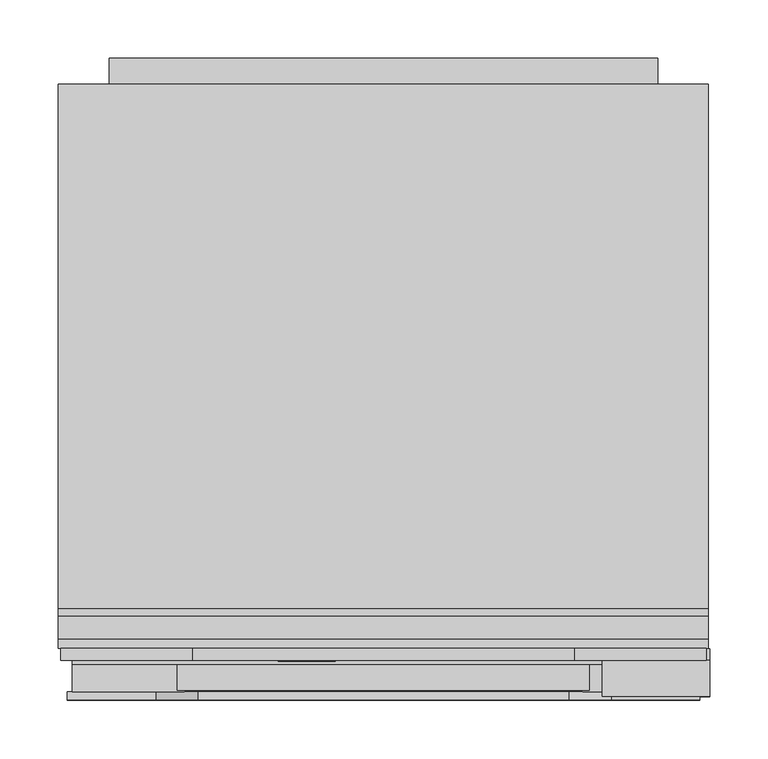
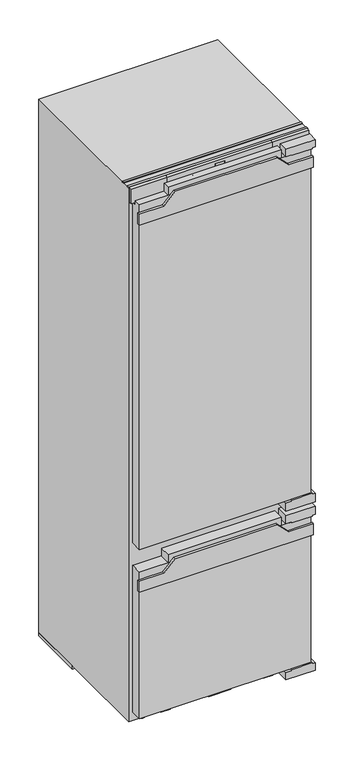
"""IFC4 building model written with IfcOpenShell, lengths in millimetres: proxy geometry, 11642240_EU1_KF7742D : 38774200_EU1_11642240_KF7742D."""

from ifc_helpers import new_model, si_unit, point, frame, frame_2d, origin, origin_with_axes, place, context, project, spatial, polyline, circle_curve, ellipse_curve, trimmed, segment, composite_curve, outline, extrude, faceted_brep, source, transform, mapped, element, save
from ifc_brep_helpers import plane_surface, cylinder_surface, revolved_surface, extruded_surface, advanced_brep


def specialty_equipment_e391ce8f(model_context):
    return source(origin(), model_context, "Body", "SolidModel", [
        advanced_brep(
        [(-46.64, 33.0, 1742.896), (-46.64, 33.0, 1743.704), (-41.288, 33.0, 1743.704), (-50.6, 33.0, 1743.704), (-48.4, 33.0, 1741.0), (-41.424, 33.0, 1742.896), (-43.84, 33.0, 1742.896), (-45.744, 33.0, 1742.0), (-46.64, 33.0, 1744.728), (-46.64, 33.0, 1745.6), (-45.272, 33.0, 1745.6), (-45.272, 33.0, 1744.728), (-46.64, 34.0, 1742.896), (-45.744, 34.0, 1742.0), (-43.84, 34.0, 1742.896), (-41.424, 34.0, 1742.896), (-48.4, 34.0, 1741.0), (-50.6, 34.0, 1743.704), (-41.288, 34.0, 1743.704), (-46.64, 34.0, 1743.704), (-46.64, 34.0, 1744.728), (-45.272, 34.0, 1744.728), (-45.272, 34.0, 1745.6), (-46.64, 34.0, 1745.6)],
        [
            (0, 1),
            (1, 2),
            (2, 3, ellipse_curve(frame((-45.944, 33.0, 1743.704), z_axis=(0.0, -1.0, 0.0), x_axis=(-1.0, 0.0, 0.0)), 4.656, 3.848)),
            (3, 4, circle_curve(frame((-47.5039564, 33.0, 1743.976), z_axis=(0.0, -1.0, 0.0), x_axis=(0.0, 0.0, -1.0)), 3.1079688)),
            (4, 5, circle_curve(frame((-46.0372064, 33.0, 1746.088), z_axis=(0.0, -1.0, 0.0), x_axis=(0.0, 0.0, -1.0)), 5.6098607)),
            (5, 6),
            (6, 7, circle_curve(frame((-45.3529412, 33.0, 1743.64), z_axis=(0.0, 1.0, 0.0), x_axis=(0.0, 0.0, -1.0)), 1.6859795)),
            (7, 0, circle_curve(frame((-45.744, 33.0, 1742.896), z_axis=(0.0, 1.0, 0.0), x_axis=(0.0, 0.0, -1.0)), 0.896)),
            (8, 9),
            (9, 10, circle_curve(frame((-45.956, 33.0, 1745.6), z_axis=(0.0, 1.0, 0.0), x_axis=(0.0, 0.0, -1.0)), 0.684)),
            (10, 11),
            (11, 8),
            (12, 13, circle_curve(frame((-45.744, 34.0, 1742.896), z_axis=(0.0, -1.0, 0.0), x_axis=(0.0, 0.0, -1.0)), 0.896)),
            (13, 14, circle_curve(frame((-45.3529412, 34.0, 1743.64), z_axis=(0.0, -1.0, 0.0), x_axis=(0.0, 0.0, -1.0)), 1.6859795)),
            (14, 15),
            (15, 16, circle_curve(frame((-46.0372064, 34.0, 1746.088), z_axis=(0.0, 1.0, 0.0), x_axis=(0.0, 0.0, -1.0)), 5.6098607)),
            (16, 17, circle_curve(frame((-47.5039564, 34.0, 1743.976), z_axis=(0.0, 1.0, 0.0), x_axis=(0.0, 0.0, -1.0)), 3.1079688)),
            (17, 18, ellipse_curve(frame((-45.944, 34.0, 1743.704), z_axis=(0.0, 1.0, 0.0), x_axis=(-1.0, 0.0, 0.0)), 4.656, 3.848)),
            (18, 19),
            (19, 12),
            (20, 21),
            (21, 22),
            (22, 23, circle_curve(frame((-45.956, 34.0, 1745.6), z_axis=(0.0, -1.0, 0.0), x_axis=(0.0, 0.0, -1.0)), 0.684)),
            (23, 20),
            (0, 12),
            (19, 1),
            (18, 2),
            (5, 15),
            (14, 6),
            (17, 3),
            (13, 7),
            (16, 4),
            (8, 20),
            (23, 9),
            (22, 10),
            (21, 11),
        ],
        [
            plane_surface(frame((-46.64, 33.0, 1743.704), z_axis=(0.0, -1.0, 0.0), x_axis=(0.0, 0.0, 1.0))),
            plane_surface(frame((-46.64, 34.0, 1743.704), z_axis=(0.0, 1.0, 0.0), x_axis=(0.0, 0.0, -1.0))),
            plane_surface(frame((-46.64, 33.0, 1742.896), z_axis=(1.0, 0.0, 0.0), x_axis=(0.0, 1.0, 0.0))),
            plane_surface(frame((-46.64, 33.0, 1743.704), z_axis=(0.0, 0.0, -1.0), x_axis=(0.0, 1.0, 0.0))),
            plane_surface(frame((-41.424, 33.0, 1742.896), z_axis=(0.0, 0.0, 1.0), x_axis=(0.0, 1.0, 0.0))),
            extruded_surface(trimmed(ellipse_curve(frame((-45.944, 35.0, 1743.704), z_axis=(0.0, -1.0, 0.0), x_axis=(-1.0, 0.0, 0.0)), 4.656, 3.848), [point((-41.288, 35.0, 1743.704))], [point((-50.6, 35.0, 1743.704))], True, "CARTESIAN"), (0.0, -1.0, 0.0), 1.0),
            revolved_surface(polyline([(-45.3529412, 34.0, 1741.9540205), (-45.3529412, 33.0, 1741.9540205)]), (-45.3529412, 34.0, 1743.64), (0.0, 1.0, 0.0)),
            revolved_surface(polyline([(-45.744, 34.0, 1742.0), (-45.744, 33.0, 1742.0)]), (-45.744, 34.0, 1742.896), (0.0, 1.0, 0.0)),
            cylinder_surface(frame((-47.5039564, 34.0, 1743.976), z_axis=(0.0, -1.0, 0.0), x_axis=(0.0, 0.0, -1.0)), 3.1079688),
            cylinder_surface(frame((-46.0372064, 34.0, 1746.088), z_axis=(0.0, -1.0, 0.0), x_axis=(0.0, 0.0, -1.0)), 5.6098607),
            plane_surface(frame((-46.64, 33.0, 1744.728), z_axis=(1.0, 0.0, 0.0), x_axis=(0.0, 1.0, 0.0))),
            revolved_surface(polyline([(-45.956, 34.0, 1744.916), (-45.956, 33.0, 1744.916)]), (-45.956, 34.0, 1745.6), (0.0, 1.0, 0.0)),
            plane_surface(frame((-45.272, 33.0, 1745.6), z_axis=(-1.0, 0.0, 0.0), x_axis=(0.0, 1.0, 0.0))),
            plane_surface(frame((-45.272, 33.0, 1744.728), z_axis=(0.0, 0.0, 1.0), x_axis=(0.0, 1.0, 0.0))),
        ],
        [
            (0, [[1, 2, 3, 4, 5, 6, 7, 8], [9, 10, 11, 12]]),
            (1, [[13, 14, 15, 16, 17, 18, 19, 20], [21, 22, 23, 24]]),
            (2, [[-1, 25, -20, 26]]),
            (3, [[-2, -26, -19, 27]]),
            (4, [[-6, 28, -15, 29]]),
            (5, [[-3, -27, -18, 30]]),
            (6, [[-7, -29, -14, 31]]),
            (7, [[-8, -31, -13, -25]]),
            (8, [[-4, -30, -17, 32]]),
            (9, [[-5, -32, -16, -28]]),
            (10, [[-9, 33, -24, 34]]),
            (11, [[-10, -34, -23, 35]]),
            (12, [[-11, -35, -22, 36]]),
            (13, [[-12, -36, -21, -33]]),
        ],
    ),
        advanced_brep(
        [(-63.336, 33.0, 1742.896), (-63.336, 33.0, 1743.704), (-57.984, 33.0, 1743.704), (-67.296, 33.0, 1743.704), (-65.096, 33.0, 1741.0), (-58.12, 33.0, 1742.896), (-60.536, 33.0, 1742.896), (-62.44, 33.0, 1742.0), (-63.336, 33.0, 1744.728), (-63.336, 33.0, 1745.6), (-61.968, 33.0, 1745.6), (-61.968, 33.0, 1744.728), (-63.336, 34.0, 1742.896), (-62.44, 34.0, 1742.0), (-60.536, 34.0, 1742.896), (-58.12, 34.0, 1742.896), (-65.096, 34.0, 1741.0), (-67.296, 34.0, 1743.704), (-57.984, 34.0, 1743.704), (-63.336, 34.0, 1743.704), (-63.336, 34.0, 1744.728), (-61.968, 34.0, 1744.728), (-61.968, 34.0, 1745.6), (-63.336, 34.0, 1745.6)],
        [
            (0, 1),
            (1, 2),
            (2, 3, ellipse_curve(frame((-62.64, 33.0, 1743.704), z_axis=(0.0, -1.0, 0.0), x_axis=(-1.0, 0.0, 0.0)), 4.656, 3.848)),
            (3, 4, circle_curve(frame((-64.1999564, 33.0, 1743.976), z_axis=(0.0, -1.0, 0.0), x_axis=(0.0, 0.0, -1.0)), 3.1079688)),
            (4, 5, circle_curve(frame((-62.7332064, 33.0, 1746.088), z_axis=(0.0, -1.0, 0.0), x_axis=(0.0, 0.0, -1.0)), 5.6098607)),
            (5, 6),
            (6, 7, circle_curve(frame((-62.0489412, 33.0, 1743.64), z_axis=(0.0, 1.0, 0.0), x_axis=(0.0, 0.0, -1.0)), 1.6859795)),
            (7, 0, circle_curve(frame((-62.44, 33.0, 1742.896), z_axis=(0.0, 1.0, 0.0), x_axis=(0.0, 0.0, -1.0)), 0.896)),
            (8, 9),
            (9, 10, circle_curve(frame((-62.652, 33.0, 1745.6), z_axis=(0.0, 1.0, 0.0), x_axis=(0.0, 0.0, -1.0)), 0.684)),
            (10, 11),
            (11, 8),
            (12, 13, circle_curve(frame((-62.44, 34.0, 1742.896), z_axis=(0.0, -1.0, 0.0), x_axis=(0.0, 0.0, -1.0)), 0.896)),
            (13, 14, circle_curve(frame((-62.0489412, 34.0, 1743.64), z_axis=(0.0, -1.0, 0.0), x_axis=(0.0, 0.0, -1.0)), 1.6859795)),
            (14, 15),
            (15, 16, circle_curve(frame((-62.7332064, 34.0, 1746.088), z_axis=(0.0, 1.0, 0.0), x_axis=(0.0, 0.0, -1.0)), 5.6098607)),
            (16, 17, circle_curve(frame((-64.1999564, 34.0, 1743.976), z_axis=(0.0, 1.0, 0.0), x_axis=(0.0, 0.0, -1.0)), 3.1079688)),
            (17, 18, ellipse_curve(frame((-62.64, 34.0, 1743.704), z_axis=(0.0, 1.0, 0.0), x_axis=(-1.0, 0.0, 0.0)), 4.656, 3.848)),
            (18, 19),
            (19, 12),
            (20, 21),
            (21, 22),
            (22, 23, circle_curve(frame((-62.652, 34.0, 1745.6), z_axis=(0.0, -1.0, 0.0), x_axis=(0.0, 0.0, -1.0)), 0.684)),
            (23, 20),
            (0, 12),
            (19, 1),
            (18, 2),
            (5, 15),
            (14, 6),
            (17, 3),
            (13, 7),
            (16, 4),
            (8, 20),
            (23, 9),
            (22, 10),
            (21, 11),
        ],
        [
            plane_surface(frame((-63.336, 33.0, 1743.704), z_axis=(0.0, -1.0, 0.0), x_axis=(0.0, 0.0, 1.0))),
            plane_surface(frame((-63.336, 34.0, 1743.704), z_axis=(0.0, 1.0, 0.0), x_axis=(0.0, 0.0, -1.0))),
            plane_surface(frame((-63.336, 33.0, 1742.896), z_axis=(1.0, 0.0, 0.0), x_axis=(0.0, 1.0, 0.0))),
            plane_surface(frame((-63.336, 33.0, 1743.704), z_axis=(0.0, 0.0, -1.0), x_axis=(0.0, 1.0, 0.0))),
            plane_surface(frame((-58.12, 33.0, 1742.896), z_axis=(0.0, 0.0, 1.0), x_axis=(0.0, 1.0, 0.0))),
            extruded_surface(trimmed(ellipse_curve(frame((-62.64, 35.0, 1743.704), z_axis=(0.0, -1.0, 0.0), x_axis=(-1.0, 0.0, 0.0)), 4.656, 3.848), [point((-57.984, 35.0, 1743.704))], [point((-67.296, 35.0, 1743.704))], True, "CARTESIAN"), (0.0, -1.0, 0.0), 1.0),
            revolved_surface(polyline([(-62.0489412, 34.0, 1741.9540205), (-62.0489412, 33.0, 1741.9540205)]), (-62.0489412, 34.0, 1743.64), (0.0, 1.0, 0.0)),
            revolved_surface(polyline([(-62.44, 34.0, 1742.0), (-62.44, 33.0, 1742.0)]), (-62.44, 34.0, 1742.896), (0.0, 1.0, 0.0)),
            cylinder_surface(frame((-64.1999564, 34.0, 1743.976), z_axis=(0.0, -1.0, 0.0), x_axis=(0.0, 0.0, -1.0)), 3.1079688),
            cylinder_surface(frame((-62.7332064, 34.0, 1746.088), z_axis=(0.0, -1.0, 0.0), x_axis=(0.0, 0.0, -1.0)), 5.6098607),
            plane_surface(frame((-63.336, 33.0, 1744.728), z_axis=(1.0, 0.0, 0.0), x_axis=(0.0, 1.0, 0.0))),
            revolved_surface(polyline([(-62.652, 34.0, 1744.916), (-62.652, 33.0, 1744.916)]), (-62.652, 34.0, 1745.6), (0.0, 1.0, 0.0)),
            plane_surface(frame((-61.968, 33.0, 1745.6), z_axis=(-1.0, 0.0, 0.0), x_axis=(0.0, 1.0, 0.0))),
            plane_surface(frame((-61.968, 33.0, 1744.728), z_axis=(0.0, 0.0, 1.0), x_axis=(0.0, 1.0, 0.0))),
        ],
        [
            (0, [[1, 2, 3, 4, 5, 6, 7, 8], [9, 10, 11, 12]]),
            (1, [[13, 14, 15, 16, 17, 18, 19, 20], [21, 22, 23, 24]]),
            (2, [[-1, 25, -20, 26]]),
            (3, [[-2, -26, -19, 27]]),
            (4, [[-6, 28, -15, 29]]),
            (5, [[-3, -27, -18, 30]]),
            (6, [[-7, -29, -14, 31]]),
            (7, [[-8, -31, -13, -25]]),
            (8, [[-4, -30, -17, 32]]),
            (9, [[-5, -32, -16, -28]]),
            (10, [[-9, 33, -24, 34]]),
            (11, [[-10, -34, -23, 35]]),
            (12, [[-11, -35, -22, 36]]),
            (13, [[-12, -36, -21, -33]]),
        ],
    ),
        extrude(outline(polyline([(1748.528, -72.08), (1747.232, -71.472), (1748.496, -68.76), (1749.792, -69.36), (1748.528, -72.08)])), frame((0.0, 33.0, 0.0), z_axis=(0.0, 1.0, 0.0), x_axis=(0.0, 0.0, 1.0)), (0.0, 0.0, 1.0), 1.0),
        extrude(outline(polyline([(1747.056, -74.056), (1745.624, -74.056), (1745.624, -73.104), (1742.344, -73.104), (1742.344, -74.056), (1741.0, -74.056), (1741.0, -67.744), (1742.344, -67.744), (1742.344, -68.672), (1747.056, -68.672), (1747.056, -74.056)])), frame((0.0, 33.0, 0.0), z_axis=(0.0, 1.0, 0.0), x_axis=(0.0, 0.0, 1.0)), (0.0, 0.0, 1.0), 1.0),
        extrude(outline(polyline([(1747.696, -57.536), (1747.696, -56.576), (1742.344, -56.576), (1742.344, -57.536), (1741.0, -57.536), (1741.0, -51.048), (1742.344, -51.048), (1742.344, -52.032), (1749.0, -52.032), (1749.0, -57.536), (1747.696, -57.536)])), frame((0.0, 33.0, 0.0), z_axis=(0.0, 1.0, 0.0), x_axis=(0.0, 0.0, 1.0)), (0.0, 0.0, 1.0), 1.0),
        extrude(outline(polyline([(1747.696, -90.0), (1747.696, -89.032), (1742.344, -89.032), (1742.344, -90.0), (1741.0, -90.0), (1741.0, -86.48), (1742.344, -86.48), (1742.344, -87.44), (1745.7471247, -87.44), (1741.0, -83.864), (1745.8152223, -80.272), (1742.344, -80.272), (1742.344, -81.256), (1741.0, -81.256), (1741.0, -74.872), (1742.344, -74.872), (1742.344, -75.888), (1747.696, -75.888), (1747.696, -74.872), (1749.0, -74.872), (1749.0, -79.744), (1746.0, -82.08), (1749.0, -84.424), (1749.0, -90.0), (1747.696, -90.0)])), frame((0.0, 33.0, 0.0), z_axis=(0.0, 1.0, 0.0), x_axis=(0.0, 0.0, 1.0)), (0.0, 0.0, 1.0), 1.0),
        extrude(outline(polyline([(461.0, 271.0), (497.0, 271.0), (497.0, 195.0), (533.0, 159.0), (533.0, -159.0), (497.0, -195.0), (497.0, -271.0), (461.0, -271.0), (461.0, 271.0)])), frame((0.0, 0.0, 0.0), z_axis=(0.0, 1.0, 0.0), x_axis=(0.0, 0.0, 1.0)), (0.0, 0.0, 1.0), 7.0),
        extrude(outline(polyline([(1670.0, 271.0), (1706.0, 271.0), (1706.0, 195.0), (1742.0, 159.0), (1742.0, -159.0), (1706.0, -195.0), (1706.0, -271.0), (1670.0, -271.0), (1670.0, 271.0)])), frame((0.0, 0.0, 0.0), z_axis=(0.0, 1.0, 0.0), x_axis=(0.0, 0.0, 1.0)), (0.0, 0.0, 1.0), 7.0),
        extrude(outline(polyline([(592.0, 205.5), (592.0, 187.5), (565.0, 187.5), (565.0, 279.5), (592.0, 279.5), (592.0, 269.5), (596.0, 269.5), (596.0, 205.5), (592.0, 205.5)])), frame((0.0, 3.0, 0.0), z_axis=(0.0, 1.0, 0.0), x_axis=(0.0, 0.0, 1.0)), (0.0, 0.0, 1.0), 41.0),
        extrude(outline(polyline([(176.5, 8.0), (-176.5, 8.0), (-176.5, 30.0), (176.5, 30.0), (176.5, 8.0)])), frame((0.0, 0.0, 1731.0), z_axis=(0.0, 0.0, 1.0), x_axis=(1.0, 0.0, 0.0)), (0.0, 0.0, 1.0), 25.0),
        extrude(outline(polyline([(7.0, 596.0), (7.0, 1731.0), (30.0, 1731.0), (30.0, 1715.0), (44.0, 1715.0), (44.0, 596.0), (7.0, 596.0)])), frame((-266.5, 0.0, 0.0), z_axis=(1.0, 0.0, 0.0), x_axis=(0.0, 1.0, 0.0)), (0.0, 0.0, 1.0), 533.0),
        extrude(outline(polyline([(-176.5, 44.0), (176.5, 44.0), (176.5, 8.0), (-176.5, 8.0), (-176.5, 44.0)])), frame((0.0, 0.0, 521.0), z_axis=(0.0, 0.0, 1.0), x_axis=(1.0, 0.0, 0.0)), (0.0, 0.0, 1.0), 25.0),
        extrude(outline(polyline([(550.0, 279.5), (550.0, 187.5), (524.0, 187.5), (524.0, 205.5), (521.0, 205.5), (521.0, 269.5), (524.0, 269.5), (524.0, 279.5), (550.0, 279.5)])), frame((0.0, 3.0, 0.0), z_axis=(0.0, 1.0, 0.0), x_axis=(0.0, 0.0, 1.0)), (0.0, 0.0, 1.0), 41.0),
        extrude(outline(polyline([(34.0, 205.5), (34.0, 187.5), (10.0, 187.5), (10.0, 279.5), (34.0, 279.5), (34.0, 269.5), (38.0, 269.5), (38.0, 205.5), (34.0, 205.5)])), frame((0.0, 3.0, 0.0), z_axis=(0.0, 1.0, 0.0), x_axis=(0.0, 0.0, 1.0)), (0.0, 0.0, 1.0), 41.0),
        extrude(outline(polyline([(1733.0, 269.5), (1733.0, 279.5), (1757.0, 279.5), (1757.0, 187.5), (1733.0, 187.5), (1733.0, 205.5), (1731.0, 205.5), (1731.0, 269.5), (1733.0, 269.5)])), frame((0.0, 3.0, 0.0), z_axis=(0.0, 1.0, 0.0), x_axis=(0.0, 0.0, 1.0)), (0.0, 0.0, 1.0), 31.0),
        extrude(outline(polyline([(-266.5, 44.0), (266.5, 44.0), (266.5, 7.0), (-266.5, 7.0), (-266.5, 44.0)])), frame((0.0, 0.0, 38.0), z_axis=(0.0, 0.0, 1.0), x_axis=(1.0, 0.0, 0.0)), (0.0, 0.0, 1.0), 483.0),
        faceted_brep([(163.5, 34.0, 1770.0), (-163.5, 34.0, 1770.0), (-163.5, 34.0, 1721.0), (163.5, 34.0, 1721.0), (15.0, 34.0, 1761.0), (15.0, 34.0, 1731.0), (-15.0, 34.0, 1731.0), (-15.0, 34.0, 1761.0), (163.5, 44.0, 1770.0), (163.5, 44.0, 1721.0), (-163.5, 44.0, 1721.0), (-163.5, 44.0, 1770.0), (15.0, 35.0, 1761.0), (-15.0, 35.0, 1761.0), (-15.0, 35.0, 1731.0), (15.0, 35.0, 1731.0)], [[[0, 1, 2, 3], [4, 5, 6, 7]], [[8, 9, 10, 11]], [[0, 3, 9, 8]], [[3, 2, 10, 9]], [[2, 1, 11, 10]], [[1, 0, 8, 11]], [[12, 13, 14, 15]], [[12, 15, 5, 4]], [[15, 14, 6, 5]], [[14, 13, 7, 6]], [[13, 12, 4, 7]]]),
        extrude(outline(polyline([(163.5, 44.0), (276.5, 44.0), (276.5, 34.0), (163.5, 34.0), (163.5, 44.0)])), frame((0.0, 0.0, 1721.0), z_axis=(0.0, 0.0, 1.0), x_axis=(1.0, 0.0, 0.0)), (0.0, 0.0, 1.0), 49.0),
        extrude(outline(polyline([(-276.5, 44.0), (-163.5, 44.0), (-163.5, 34.0), (-276.5, 34.0), (-276.5, 44.0)])), frame((0.0, 0.0, 1721.0), z_axis=(0.0, 0.0, 1.0), x_axis=(1.0, 0.0, 0.0)), (0.0, 0.0, 1.0), 49.0),
        extrude(outline(polyline([(-15.0, 35.0), (15.0, 35.0), (15.0, 34.0), (-15.0, 34.0), (-15.0, 35.0)])), frame((0.0, 0.0, 1731.0), z_axis=(0.0, 0.0, 1.0), x_axis=(1.0, 0.0, 0.0)), (0.0, 0.0, 1.0), 30.0),
        extrude(outline(polyline([(1647.0, -235.0), (27.0, -235.0), (27.0, 235.0), (130.0, 235.0), (130.0, 180.0), (160.0, 180.0), (160.0, 235.0), (1647.0, 235.0), (1647.0, -235.0)])), frame((0.0, 528.0, 0.0), z_axis=(0.0, 1.0, 0.0), x_axis=(0.0, 0.0, 1.0)), (0.0, 0.0, 1.0), 22.0),
        extrude(outline(polyline([(-144.929185, 52.0), (-174.0, 52.0), (-194.6983363, 348.0), (-165.6275213, 348.0), (-144.929185, 52.0)])), origin_with_axes(), (0.0, 0.0, 1.0), 10.0),
        extrude(outline(polyline([(144.929185, 52.0), (165.6275213, 348.0), (194.6983363, 348.0), (174.0, 52.0), (144.929185, 52.0)])), origin_with_axes(), (0.0, 0.0, 1.0), 10.0),
        extrude(outline(polyline([(541.4384039, 149.874164), (548.6647626, 149.874164), (548.6647626, 139.824714), (541.2826236, 139.824714), (541.2826236, 141.0836119), (547.4056247, 141.0836119), (547.4056247, 144.3750411), (541.7614845, 144.3750411), (541.7614845, 145.6249589), (547.4056247, 145.6249589), (547.4056247, 148.6148402), (541.4384039, 148.6148402), (541.4384039, 149.874164)])), frame((193.5, 0.0, 0.0), z_axis=(1.0, 0.0, 0.0), x_axis=(0.0, 1.0, 0.0)), (0.0, 0.0, 1.0), 1.0),
        extrude(outline(polyline([(538.1383052, 149.8716162), (539.399354, 149.8716162), (539.399354, 139.824714), (533.1225656, 139.824714), (533.1225656, 141.0927041), (538.1383052, 141.0927041), (538.1383052, 149.8716162)])), frame((193.5, 0.0, 0.0), z_axis=(1.0, 0.0, 0.0), x_axis=(0.0, 1.0, 0.0)), (0.0, 0.0, 1.0), 1.0),
        advanced_brep(
        [(232.0, 528.0, 145.0), (217.0, 528.0, 145.0), (232.0, 549.5, 145.0), (217.0, 534.5, 145.0), (194.5, 549.5, 145.0), (194.5, 534.5, 145.0)],
        [
            (0, 1, circle_curve(frame((224.5, 528.0, 145.0), z_axis=(0.0, -1.0, 0.0), x_axis=(-1.0, 0.0, 0.0)), 7.5)),
            (1, 0, circle_curve(frame((224.5, 528.0, 145.0), z_axis=(0.0, -1.0, 0.0), x_axis=(-1.0, 0.0, 0.0)), 7.5)),
            (0, 2),
            (2, 3, ellipse_curve(frame((224.5, 542.0, 145.0), z_axis=(0.7071067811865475, -0.7071067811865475, 0.0), x_axis=(-0.7071067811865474, -0.7071067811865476, 0.0)), 10.6066017, 7.5)),
            (3, 1),
            (3, 2, ellipse_curve(frame((224.5, 542.0, 145.0), z_axis=(0.7071067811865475, -0.7071067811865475, 0.0), x_axis=(-0.7071067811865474, -0.7071067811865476, 0.0)), 10.6066017, 7.5)),
            (4, 5, circle_curve(frame((194.5, 542.0, 145.0), z_axis=(-1.0, 0.0, 0.0), x_axis=(0.0, -1.0, 0.0)), 7.5)),
            (5, 4, circle_curve(frame((194.5, 542.0, 145.0), z_axis=(-1.0, 0.0, 0.0), x_axis=(0.0, -1.0, 0.0)), 7.5)),
            (2, 4),
            (5, 3),
        ],
        [
            plane_surface(frame((224.5, 528.0, 145.0), z_axis=(0.0, -1.0, 0.0), x_axis=(0.0, 0.0, 1.0))),
            cylinder_surface(frame((224.5, 528.0, 145.0), z_axis=(0.0, -1.0, 0.0), x_axis=(-1.0, 0.0, 0.0)), 7.5),
            plane_surface(frame((194.5, 542.0, 145.0), z_axis=(-1.0, 0.0, 0.0), x_axis=(0.0, 0.0, 1.0))),
            cylinder_surface(frame((224.5, 542.0, 145.0), z_axis=(1.0, 0.0, 0.0), x_axis=(0.0, -1.0, 0.0)), 7.5),
        ],
        [
            (0, [[1, 2]]),
            (1, [[-1, 3, 4, 5]]),
            (1, [[-2, -5, 6, -3]]),
            (2, [[7, 8]]),
            (3, [[-4, 9, -8, 10]]),
            (3, [[-6, -10, -7, -9]]),
        ],
    ),
        extrude(outline(polyline([(-34.0, 44.0), (34.0, 44.0), (34.0, 35.0), (-34.0, 35.0), (-34.0, 44.0)])), frame((0.0, 0.0, 13.0), z_axis=(0.0, 0.0, 1.0), x_axis=(1.0, 0.0, 0.0)), (0.0, 0.0, 1.0), 19.0),
        extrude(outline(polyline([(278.5, 52.0), (278.5, 44.0), (-278.5, 44.0), (-278.5, 52.0), (278.5, 52.0)])), frame((0.0, 0.0, 1767.0), z_axis=(0.0, 0.0, 1.0), x_axis=(1.0, 0.0, 0.0)), (0.0, 0.0, 1.0), 3.0),
        extrude(outline(polyline([(278.5, 78.0), (278.5, 72.0), (-278.5, 72.0), (-278.5, 78.0), (278.5, 78.0)])), frame((0.0, 0.0, 1767.0), z_axis=(0.0, 0.0, 1.0), x_axis=(1.0, 0.0, 0.0)), (0.0, 0.0, 1.0), 3.0),
        extrude(outline(polyline([(-242.5, 44.0), (-242.5, 490.0), (242.5, 490.0), (242.5, 44.0), (-242.5, 44.0)])), frame((0.0, 0.0, 996.0), z_axis=(0.0, 0.0, 1.0), x_axis=(1.0, 0.0, 0.0)), (0.0, 0.0, 1.0), 3.0),
        extrude(outline(polyline([(-217.5, 312.0), (-217.5, 451.0), (217.5, 451.0), (217.5, 312.0), (-217.5, 312.0)])), frame((0.0, 0.0, 93.0), z_axis=(0.0, 0.0, 1.0), x_axis=(1.0, 0.0, 0.0)), (0.0, 0.0, 1.0), 200.0),
        extrude(outline(composite_curve([segment(trimmed(circle_curve(frame_2d((228.0, 64.0)), 11.0), [point((239.0, 64.0))], [point((217.0, 64.0))], False, "CARTESIAN"), True, "CONTINUOUS"), segment(trimmed(circle_curve(frame_2d((228.0, 64.0)), 11.0), [point((217.0, 64.0))], [point((239.0, 64.0))], False, "CARTESIAN"), True, "CONTINUOUS")], self_intersect=False)), origin_with_axes(), (0.0, 0.0, 1.0), 10.0),
        extrude(outline(composite_curve([segment(trimmed(circle_curve(frame_2d((-228.0, 64.0)), 11.0), [point((-217.0, 64.0))], [point((-239.0, 64.0))], False, "CARTESIAN"), True, "CONTINUOUS"), segment(trimmed(circle_curve(frame_2d((-228.0, 64.0)), 11.0), [point((-239.0, 64.0))], [point((-217.0, 64.0))], False, "CARTESIAN"), True, "CONTINUOUS")], self_intersect=False)), origin_with_axes(), (0.0, 0.0, 1.0), 10.0),
        extrude(outline(polyline([(278.5, 528.0), (278.5, 348.0), (-278.5, 348.0), (-278.5, 528.0), (278.5, 528.0)])), origin_with_axes(), (0.0, 0.0, 1.0), 10.0),
        faceted_brep([(278.5, 528.0, 1767.0), (-278.5, 528.0, 1767.0), (-278.5, 44.0, 1767.0), (278.5, 44.0, 1767.0), (278.5, 528.0, 10.0), (278.5, 44.0, 10.0), (-278.5, 44.0, 10.0), (-278.5, 528.0, 10.0), (242.5, 44.0, 1692.0), (242.5, 44.0, 619.0), (-242.5, 44.0, 619.0), (-242.5, 44.0, 1692.0), (217.5, 44.0, 473.0), (217.5, 44.0, 93.0), (-217.5, 44.0, 93.0), (-217.5, 44.0, 473.0), (242.5, 490.0, 1692.0), (-242.5, 490.0, 1692.0), (-242.5, 490.0, 619.0), (242.5, 490.0, 619.0), (217.5, 451.0, 473.0), (217.5, 451.0, 93.0), (-217.5, 451.0, 473.0), (-217.5, 451.0, 93.0)], [[[0, 1, 2, 3]], [[4, 5, 6, 7]], [[1, 0, 4, 7]], [[2, 1, 7, 6]], [[3, 2, 6, 5], [8, 9, 10, 11], [12, 13, 14, 15]], [[0, 3, 5, 4]], [[16, 17, 18, 19]], [[16, 19, 9, 8]], [[19, 18, 10, 9]], [[18, 17, 11, 10]], [[17, 16, 8, 11]], [[20, 21, 13, 12]], [[22, 15, 14, 23]], [[21, 20, 22, 23]], [[13, 21, 23, 14]], [[20, 12, 15, 22]]]),
    ])


if __name__ == "__main__":
    model = new_model("IFC4")
    model_context = context("Model", 3, world=origin())
    ifc_project = project(units=[si_unit("LENGTHUNIT", "METRE", prefix="MILLI")], contexts=[model_context])
    site = spatial("IfcSite", under=ifc_project)
    building = spatial("IfcBuilding", under=site)
    placement = place(None, origin())
    specialty_equipment_shape = specialty_equipment_e391ce8f(model_context)
    element("IfcBuildingElementProxy", 1, Name="11642240_EU1_KF7742D : 38774200_EU1_11642240_KF7742D", ObjectType="11642240_EU1_KF7742D : 38774200_EU1_11642240_KF7742D", at=placement, inside=building, context=model_context, shape_type="MappedRepresentation", body=[
        mapped(specialty_equipment_shape, transform((0.0, 0.0, 0.0), x_axis=(1.0, 0.0, 0.0), y_axis=(0.0, 1.0, 0.0), z_axis=(0.0, 0.0, 1.0))),
    ])
    save(model, "model.ifc")
